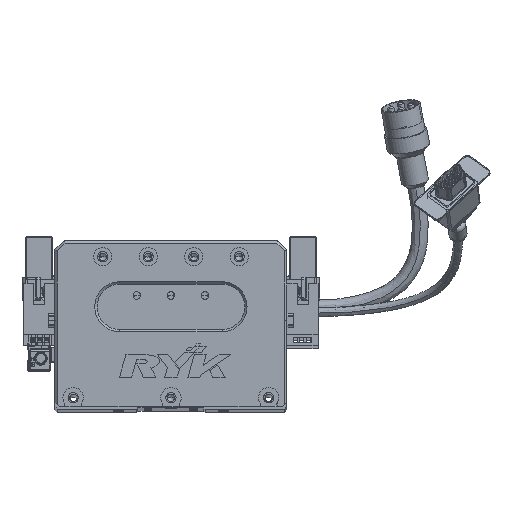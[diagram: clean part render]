
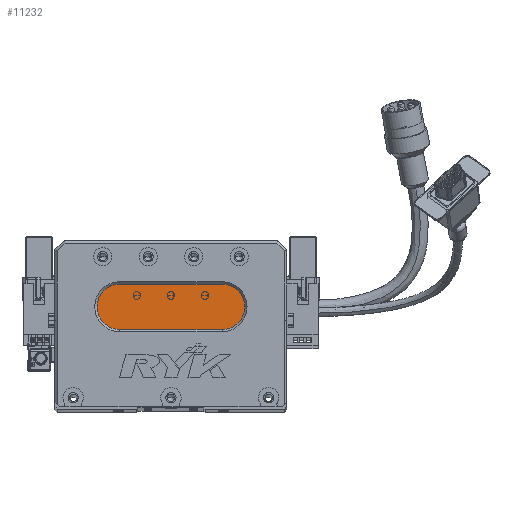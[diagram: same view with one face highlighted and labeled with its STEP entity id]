
A CAD part, top view. The second image highlights one B-rep face of the part: STEP entity #11232.
In plain terms, the highlighted planar face has unit normal (0, 0, 1) as drawn and (0, 0, -1) by its records, which use the part's own axes.
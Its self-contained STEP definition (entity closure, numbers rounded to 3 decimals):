
#214 = VERTEX_POINT ( 'NONE', #3110 ) ;
#403 = DIRECTION ( 'NONE',  ( 0., 0., -1. ) ) ;
#992 = VERTEX_POINT ( 'NONE', #62513 ) ;
#1565 = CIRCLE ( 'NONE', #40121, 10. ) ;
#1872 = DIRECTION ( 'NONE',  ( -1., 0., 0. ) ) ;
#3110 = CARTESIAN_POINT ( 'NONE',  ( 18.5, 44., 13. ) ) ;
#3920 = EDGE_CURVE ( 'NONE', #27883, #29753, #28164, .T. ) ;
#5228 = EDGE_CURVE ( 'NONE', #214, #992, #45686, .T. ) ;
#6988 = LINE ( 'NONE', #15209, #29520 ) ;
#7085 = DIRECTION ( 'NONE',  ( -1., 0., 0. ) ) ;
#11232 = ADVANCED_FACE ( 'NONE', ( #40994 ), #58636, .T. ) ;
#11409 = CARTESIAN_POINT ( 'NONE',  ( 28.5, 34., 13. ) ) ;
#13151 = ORIENTED_EDGE ( 'NONE', *, *, #5228, .T. ) ;
#15209 = CARTESIAN_POINT ( 'NONE',  ( 73.5, 54., 13. ) ) ;
#16162 = LINE ( 'NONE', #20928, #18559 ) ;
#17582 = CARTESIAN_POINT ( 'NONE',  ( 28.5, 44., 13. ) ) ;
#18079 = EDGE_CURVE ( 'NONE', #992, #27883, #6988, .T. ) ;
#18559 = VECTOR ( 'NONE', #31257, 1000. ) ;
#20928 = CARTESIAN_POINT ( 'NONE',  ( 73.5, 34., 13. ) ) ;
#22283 = AXIS2_PLACEMENT_3D ( 'NONE', #36167, #403, #35729 ) ;
#22374 = AXIS2_PLACEMENT_3D ( 'NONE', #41138, #40921, #66560 ) ;
#26276 = ORIENTED_EDGE ( 'NONE', *, *, #3920, .T. ) ;
#26527 = AXIS2_PLACEMENT_3D ( 'NONE', #28445, #43986, #7085 ) ;
#27883 = VERTEX_POINT ( 'NONE', #31515 ) ;
#28164 = CIRCLE ( 'NONE', #22283, 10. ) ;
#28445 = CARTESIAN_POINT ( 'NONE',  ( 73.5, 44., 13. ) ) ;
#29520 = VECTOR ( 'NONE', #40204, 1000. ) ;
#29753 = VERTEX_POINT ( 'NONE', #63025 ) ;
#31257 = DIRECTION ( 'NONE',  ( -1., 0., 0. ) ) ;
#31515 = CARTESIAN_POINT ( 'NONE',  ( 73.5, 54., 13. ) ) ;
#35729 = DIRECTION ( 'NONE',  ( -1., 0., 0. ) ) ;
#36167 = CARTESIAN_POINT ( 'NONE',  ( 73.5, 44., 13. ) ) ;
#38441 = EDGE_LOOP ( 'NONE', ( #26276, #56106, #41470, #13151, #53654 ) ) ;
#40121 = AXIS2_PLACEMENT_3D ( 'NONE', #17582, #48220, #1872 ) ;
#40204 = DIRECTION ( 'NONE',  ( 1., 0., 0. ) ) ;
#40921 = DIRECTION ( 'NONE',  ( 0., 0., -1. ) ) ;
#40994 = FACE_OUTER_BOUND ( 'NONE', #38441, .T. ) ;
#41138 = CARTESIAN_POINT ( 'NONE',  ( 28.5, 44., 13. ) ) ;
#41470 = ORIENTED_EDGE ( 'NONE', *, *, #63623, .T. ) ;
#43986 = DIRECTION ( 'NONE',  ( 0., 0., -1. ) ) ;
#45686 = CIRCLE ( 'NONE', #22374, 10. ) ;
#48220 = DIRECTION ( 'NONE',  ( 0., 0., -1. ) ) ;
#52418 = EDGE_CURVE ( 'NONE', #29753, #54611, #16162, .T. ) ;
#53654 = ORIENTED_EDGE ( 'NONE', *, *, #18079, .T. ) ;
#54611 = VERTEX_POINT ( 'NONE', #11409 ) ;
#56106 = ORIENTED_EDGE ( 'NONE', *, *, #52418, .T. ) ;
#58636 = PLANE ( 'NONE',  #26527 ) ;
#62513 = CARTESIAN_POINT ( 'NONE',  ( 28.5, 54., 13. ) ) ;
#63025 = CARTESIAN_POINT ( 'NONE',  ( 73.5, 34., 13. ) ) ;
#63623 = EDGE_CURVE ( 'NONE', #54611, #214, #1565, .T. ) ;
#66560 = DIRECTION ( 'NONE',  ( -1., 0., 0. ) ) ;
